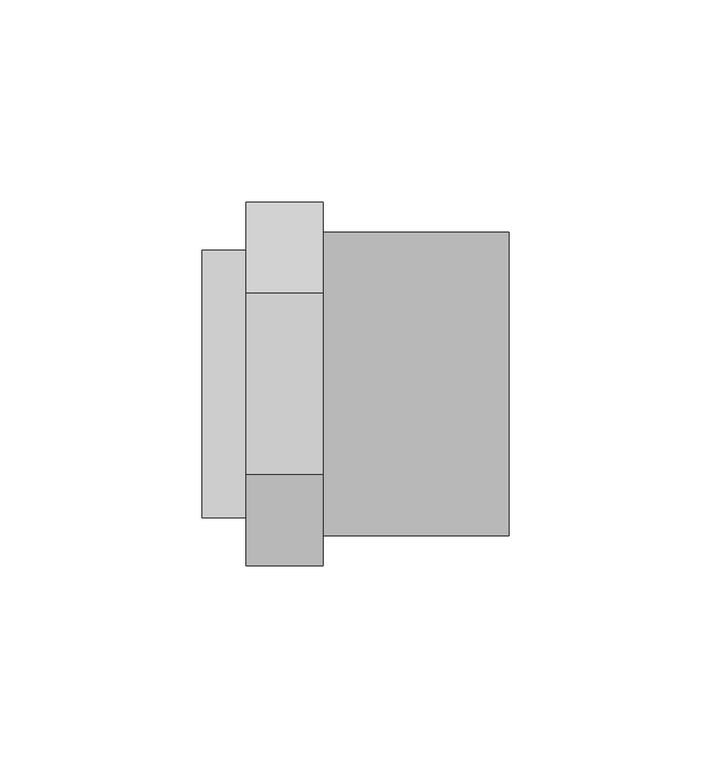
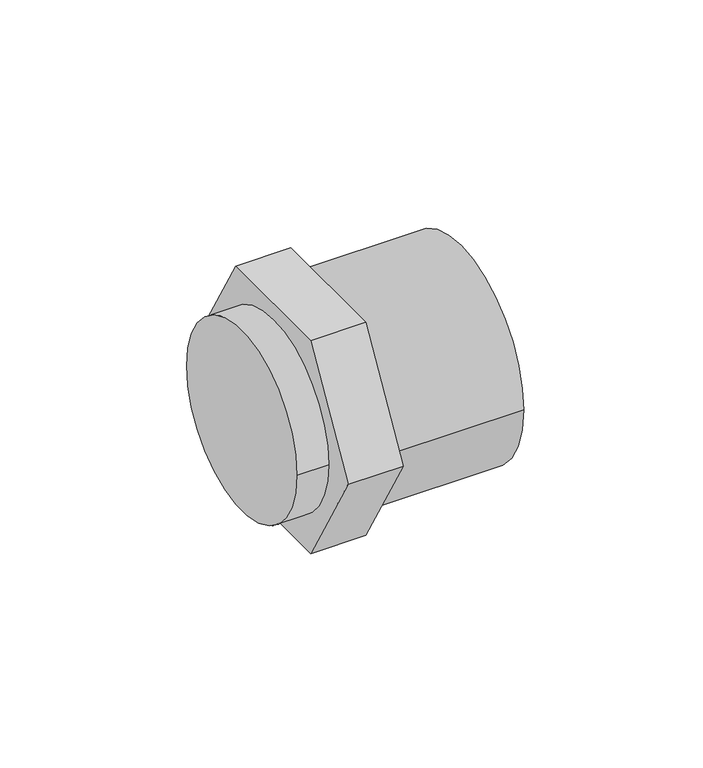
"""IFC4 building model written with IfcOpenShell, lengths in millimetres: pipe fitting geometry, 01101008_ : Mamelons de réduction multiples FxMxF."""

from ifc_helpers import new_model, si_unit, point, frame, origin, origin_2d, place, context, project, spatial, polyline, circle_curve, trimmed, segment, composite_curve, outline, extrude, source, transform, mapped, element, save


def pipe_fitting_cd5067be(model_context):
    return source(origin(), model_context, "Body", "SweptSolid", [
        extrude(outline(composite_curve([segment(trimmed(circle_curve(origin_2d(), 33.075), [point((33.075, 0.0))], [point((-33.075, 0.0))], False, "CARTESIAN"), True, "CONTINUOUS"), segment(trimmed(circle_curve(origin_2d(), 33.075), [point((-33.075, 0.0))], [point((33.075, 0.0))], False, "CARTESIAN"), True, "CONTINUOUS")], self_intersect=False)), frame((0.0, 0.0, 0.0), z_axis=(1.0, 0.0, 0.0), x_axis=(0.0, 1.0, 0.0)), (0.0, 0.0, 1.0), 11.0),
        extrude(outline(polyline([(-22.5166605, 39.0), (22.5166605, 39.0), (45.033321, 0.0), (22.5166605, -39.0), (-22.5166605, -39.0), (-45.033321, 0.0), (-22.5166605, 39.0)])), frame((11.0, 0.0, 0.0), z_axis=(1.0, 0.0, 0.0), x_axis=(0.0, 1.0, 0.0)), (0.0, 0.0, 1.0), 19.0),
        extrude(outline(composite_curve([segment(trimmed(circle_curve(origin_2d(), 37.5), [point((-37.5, 0.0))], [point((37.5, 0.0))], False, "CARTESIAN"), True, "CONTINUOUS"), segment(trimmed(circle_curve(origin_2d(), 37.5), [point((37.5, 0.0))], [point((-37.5, 0.0))], False, "CARTESIAN"), True, "CONTINUOUS")], self_intersect=False)), frame((30.0, 0.0, 0.0), z_axis=(1.0, 0.0, 0.0), x_axis=(0.0, 1.0, 0.0)), (0.0, 0.0, 1.0), 46.0),
    ])


if __name__ == "__main__":
    model = new_model("IFC4")
    model_context = context("Model", 3, world=origin())
    ifc_project = project(units=[si_unit("LENGTHUNIT", "METRE", prefix="MILLI")], contexts=[model_context])
    site = spatial("IfcSite", under=ifc_project)
    building = spatial("IfcBuilding", under=site)
    placement = place(None, origin())
    pipe_fitting_shape = pipe_fitting_cd5067be(model_context)
    element("IfcPipeFitting", 1, ObjectType="01101008_ : Mamelons de réduction multiples FxMxF", at=placement, inside=building, context=model_context, shape_type="MappedRepresentation", body=[
        mapped(pipe_fitting_shape, transform((0.0, 0.0, 0.0), x_axis=(1.0, 0.0, 0.0), y_axis=(0.0, 1.0, 0.0), z_axis=(0.0, 0.0, 1.0))),
    ])
    save(model, "model.ifc")
